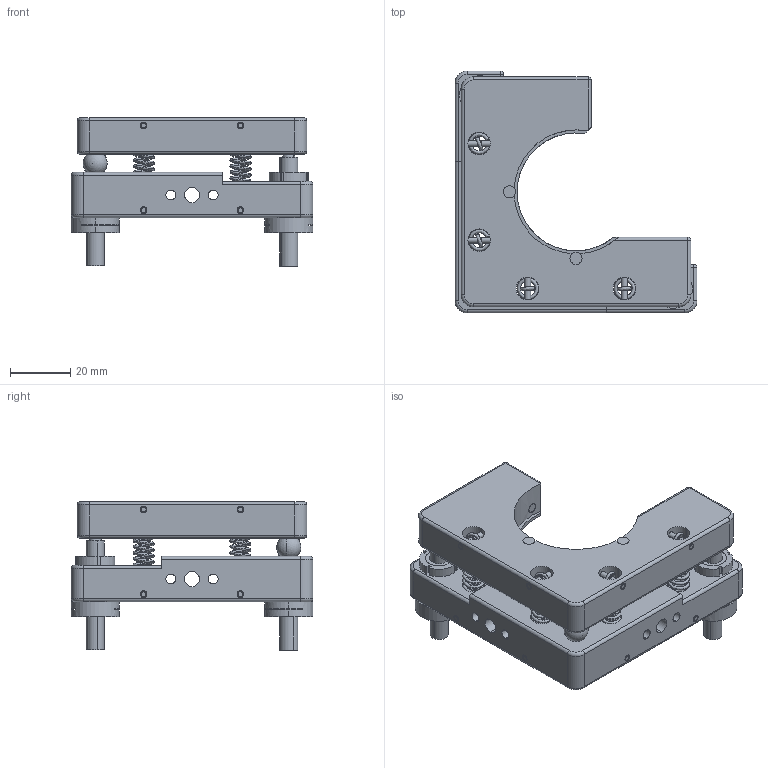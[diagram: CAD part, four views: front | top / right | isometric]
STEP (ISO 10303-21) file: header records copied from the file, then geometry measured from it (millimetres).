
FILE_DESCRIPTION (( 'STEP AP203' ), '1' );
FILE_NAME ('7MM1640謗峎覃淕噩殤.STEP', '2019-10-22T06:05:34', ( '' ), ( '' ), 'SwSTEP 2.0', 'SolidWorks 2014', '' );
FILE_SCHEMA (( 'CONFIG_CONTROL_DESIGN' ));
Length unit declared in the file: millimetre
Products named in the file (1): 7MM1640謗峎覃淕噩殤
Bounding box: 80 x 80 x 49.02 mm (x, y, z)
Surface area: 29757.7 mm2 (no closed solid volume)
Topology: 0 solids, 40 shells, 380 faces, 1044 edges, 654 vertices
Faces by surface type: cylinder 165, plane 101, torus 44, bspline 32, cone 24, sphere 14
Entity records: 23555 total; most frequent: CARTESIAN_POINT 14037, DIRECTION 2103, ORIENTED_EDGE 1786, EDGE_CURVE 1001, AXIS2_PLACEMENT_3D 847, VERTEX_POINT 645, CIRCLE 498, EDGE_LOOP 446
